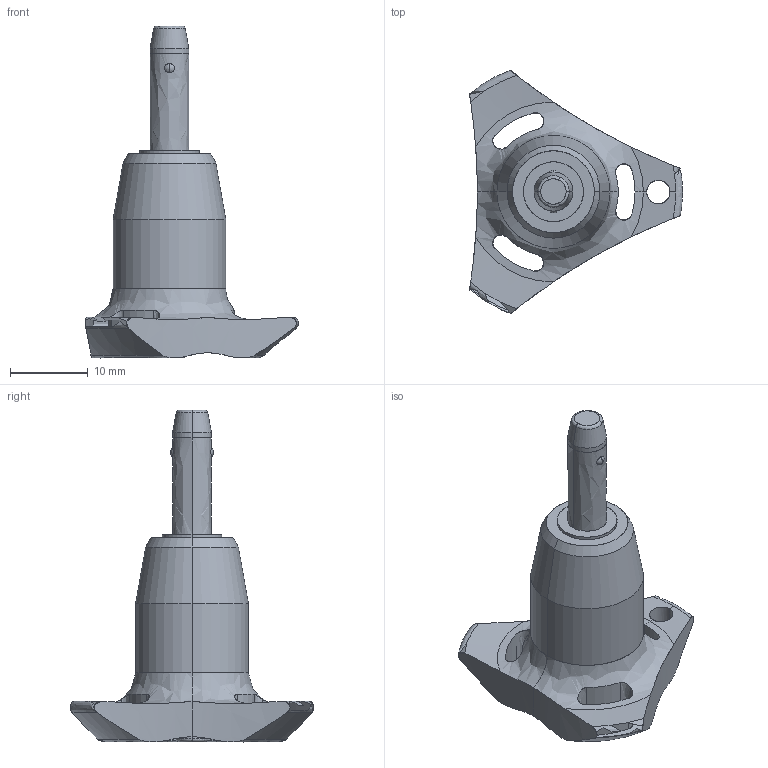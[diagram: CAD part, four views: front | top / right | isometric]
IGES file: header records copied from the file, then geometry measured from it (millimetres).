
Start section: SolidWorks IGES file using analytic representation for surfaces
Global section: file name: C:\Users\ianosborn\Desktop\QR1736_v2\QR1736_v2_20251115_IGES\QR1736.M05-010-T.igs; native system: SolidWorks 2019; preprocessor: SolidWorks 2019; author: IanOsborn; date: 251113.114514; units: millimetre
Bounding box: 27.4 x 31.31 x 42.7 mm (x, y, z)
Surface area: 2665.6 mm2 (no closed solid volume)
Topology: 0 solids, 0 shells, 69 faces, 1299 edges, 1280 vertices
Faces by surface type: revolution 52, bspline 17
